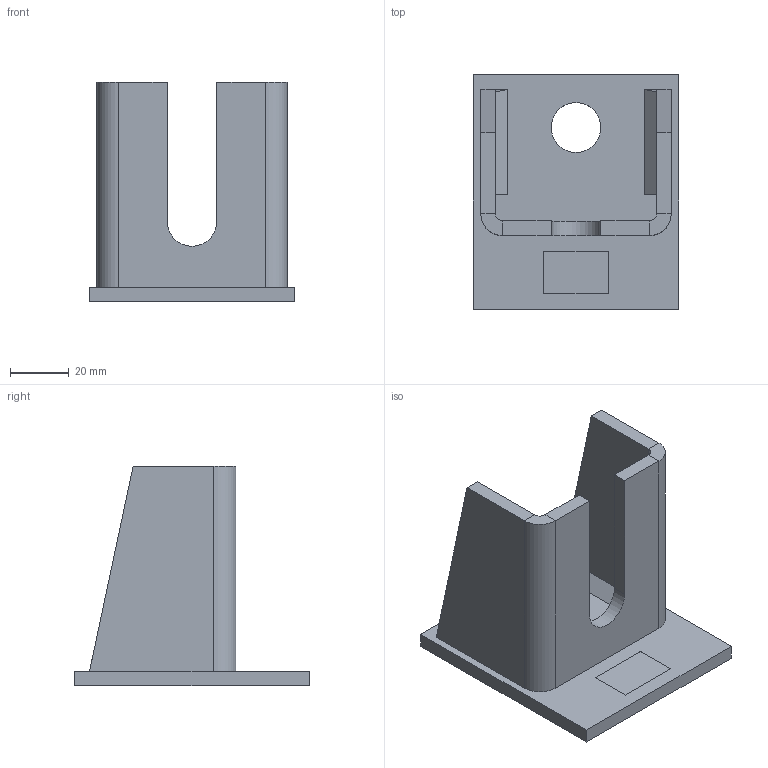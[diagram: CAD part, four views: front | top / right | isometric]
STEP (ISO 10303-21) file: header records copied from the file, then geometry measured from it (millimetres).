
FILE_DESCRIPTION(/* description */ ('Einfachkonsole Nr.1+2'),/* implementation_level */ '2;1');
FILE_NAME(/* name */ 'Q:\sge-ma\Produktmanagement-STB\STB\Workspace\stp\010335320.stp',/* time_stamp */ '2015-03-26T09:48:57+01:00',/* author */ ('avschreier'),/* organization */ (''),/* preprocessor_version */ 'ST-DEVELOPER v15.6',/* originating_system */ 'Autodesk Inventor 2015',/* authorisation */ '');
FILE_SCHEMA (('CONFIG_CONTROL_DESIGN'));
Length unit declared in the file: millimetre
Products named in the file (4): 010335320_Schweißnähte; 337000227; 337000228; 010335320
Bounding box: 70 x 80 x 75 mm (x, y, z)
Volume: 70437.3 mm3; surface area: 33352.3 mm2
Topology: 4 solids, 4 shells, 48 faces, 101 edges, 62 vertices
Faces by surface type: plane 42, cylinder 6
Full cylindrical faces by diameter (mm): 17 x1
Entity records: 1343 total; most frequent: DIRECTION 222, CARTESIAN_POINT 217, ORIENTED_EDGE 200, EDGE_CURVE 100, LINE 88, VECTOR 88, AXIS2_PLACEMENT_3D 67, VERTEX_POINT 62
